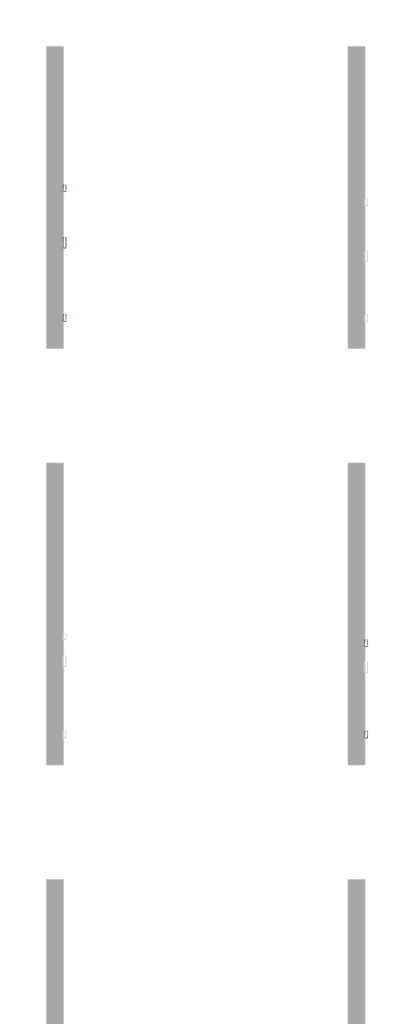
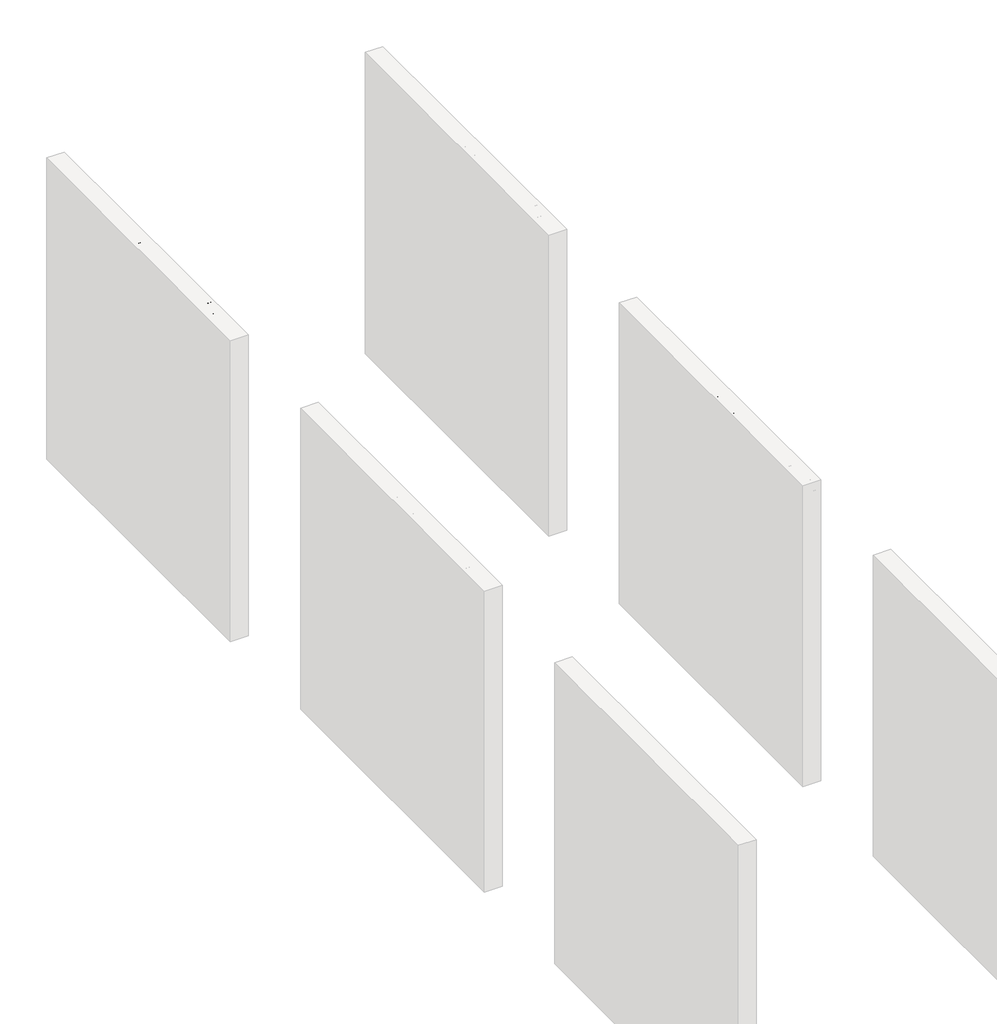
# One storey, part 13 of 17: 5 proxies.
"""IFC4 building model written with IfcOpenShell, lengths in millimetres."""

from ifc_helpers import new_model, si_unit, frame, origin, place, context, project, spatial, polyline, outline, extrude, element, save

model = new_model("IFC4")

# Units and contexts
model_context = context("Model", 3, world=origin())
ifc_project = project(units=[si_unit("LENGTHUNIT", "METRE", prefix="MILLI")], contexts=[model_context])

# Site, building, storey
site = spatial("IfcSite", under=ifc_project)
building = spatial("IfcBuilding", under=site)
storey = spatial("IfcBuildingStorey", under=building, Name="PORTOBELLO - SHOWROOM", Elevation=0.0)

# Proxies
placement = place(None, origin())
element("IfcBuildingElementProxy", 1, Name="10mm Arial", ObjectType="10mm Arial", at=placement, inside=storey, context=model_context, shape_type="SweptSolid", body=[
    extrude(outline(polyline([(13175.18701, 2518.4745677), (13175.18701, 2606.373839), (13142.2247833, 2606.373839), (13142.2247833, 2618.9308778), (13220.7062756, 2618.9308778), (13220.7062756, 2606.373839), (13187.7440488, 2606.373839), (13187.7440488, 2518.4745677), (13175.18701, 2518.4745677)])), frame((-13022.2794626, 0.0, 0.0), z_axis=(1.0, 0.0, 0.0), x_axis=(0.0, 1.0, 0.0)), (0.0, 0.0, 1.0), 20.0),
    extrude(outline(polyline([(13230.1240546, 2555.360869), (13232.84025, 2573.1479635), (13240.9888362, 2585.64982), (13251.0565402, 2591.7750552), (13263.1108069, 2593.8168003), (13276.3024421, 2591.3305311), (13286.8391956, 2583.8717237), (13293.74618, 2572.0289891), (13296.0485082, 2556.3909386), (13291.9772808, 2534.0482388), (13280.1192178, 2521.4053609), (13263.1108069, 2516.9049378), (13249.7597561, 2519.3820099), (13239.2352654, 2526.8132262), (13232.4018573, 2538.9042811), (13230.1240546, 2555.360869)]), holes=[polyline([(13242.6810934, 2555.3853945), (13244.1342273, 2544.0209065), (13248.4936289, 2535.924437), (13255.0541912, 2531.0775917), (13263.1108069, 2529.4619766), (13271.1306344, 2531.0867887), (13277.6789339, 2535.9612252), (13282.0383355, 2544.1649937), (13283.4914694, 2555.777802), (13282.0291385, 2566.8111961), (13277.6421457, 2574.7973011), (13271.0846491, 2579.6441464), (13263.1108069, 2581.2597615), (13255.0541912, 2579.6502778), (13248.4936289, 2574.8218266), (13244.1342273, 2566.7437511), (13242.6810934, 2555.3853945)])]), frame((-13022.2794626, 0.0, 0.0), z_axis=(1.0, 0.0, 0.0), x_axis=(0.0, 1.0, 0.0)), (0.0, 0.0, 1.0), 20.0),
    extrude(outline(polyline([(13313.3144365, 2518.4745677), (13313.3144365, 2579.6901317), (13302.3270276, 2579.6901317), (13302.3270276, 2592.2471704), (13313.3144365, 2592.2471704), (13313.3144365, 2599.6783867), (13314.6388117, 2610.1507609), (13321.0644838, 2617.6310281), (13333.7196245, 2620.5005077), (13345.1730173, 2619.1270815), (13343.3336073, 2607.3548577), (13336.0985947, 2607.9434689), (13328.1891318, 2605.8588043), (13325.8714752, 2598.0842314), (13325.8714752, 2592.2471704), (13339.9981439, 2592.2471704), (13339.9981439, 2579.6901317), (13325.8714752, 2579.6901317), (13325.8714752, 2518.4745677), (13313.3144365, 2518.4745677)])), frame((-13022.2794626, 0.0, 0.0), z_axis=(1.0, 0.0, 0.0), x_axis=(0.0, 1.0, 0.0)), (0.0, 0.0, 1.0), 20.0),
    extrude(outline(polyline([(13354.1248125, 2518.4745677), (13354.1248125, 2579.6901317), (13343.1374036, 2579.6901317), (13343.1374036, 2592.2471704), (13354.1248125, 2592.2471704), (13354.1248125, 2599.6783867), (13355.4491877, 2610.1507609), (13361.8748598, 2617.6310281), (13374.5300005, 2620.5005077), (13385.9833933, 2619.1270815), (13384.1439833, 2607.3548577), (13376.9089707, 2607.9434689), (13368.9995078, 2605.8588043), (13366.6818512, 2598.0842314), (13366.6818512, 2592.2471704), (13380.8085199, 2592.2471704), (13380.8085199, 2579.6901317), (13366.6818512, 2579.6901317), (13366.6818512, 2518.4745677), (13354.1248125, 2518.4745677)])), frame((-13022.2794626, 0.0, 0.0), z_axis=(1.0, 0.0, 0.0), x_axis=(0.0, 1.0, 0.0)), (0.0, 0.0, 1.0), 20.0),
    extrude(outline(polyline([(13443.4465609, 2540.4493855), (13455.758345, 2538.8797557), (13451.3223013, 2529.602998), (13444.2436386, 2522.6684224), (13434.6817724, 2518.345809), (13422.7961182, 2516.9049378), (13408.0624443, 2519.391207), (13396.7255475, 2526.8500144), (13389.4966663, 2538.7969822), (13387.0870392, 2554.7477324), (13389.5211918, 2571.2349771), (13396.8236494, 2583.5651553), (13408.007262, 2591.253889), (13422.0848797, 2593.8168003), (13435.7241047, 2591.2600204), (13446.6226088, 2583.5896808), (13453.7687166, 2571.2840281), (13456.1507525, 2554.8213088), (13456.0771761, 2551.4367944), (13399.644078, 2551.4367944), (13401.8176475, 2542.0374095), (13406.8668279, 2535.1273593), (13414.153957, 2530.8783223), (13423.0413729, 2529.4619766), (13435.353157, 2532.0862015), (13443.4465609, 2540.4493855)]), holes=[polyline([(13399.644078, 2563.9938332), (13443.5937137, 2563.9938332), (13438.5659931, 2575.3736496), (13431.2451414, 2579.7882335), (13422.0358288, 2581.2597615), (13406.5725223, 2576.5631347), (13401.7072829, 2571.0724959), (13399.644078, 2563.9938332)])]), frame((-13022.2794626, 0.0, 0.0), z_axis=(1.0, 0.0, 0.0), x_axis=(0.0, 1.0, 0.0)), (0.0, 0.0, 1.0), 20.0),
    extrude(outline(polyline([(13520.3584234, 2540.4493855), (13532.6702075, 2538.8797557), (13528.2341637, 2529.602998), (13521.155501, 2522.6684224), (13511.5936348, 2518.345809), (13499.7079807, 2516.9049378), (13484.9743068, 2519.391207), (13473.63741, 2526.8500144), (13466.4085288, 2538.7969822), (13463.9989017, 2554.7477324), (13466.4330542, 2571.2349771), (13473.7355118, 2583.5651553), (13484.9191245, 2591.253889), (13498.9967422, 2593.8168003), (13512.6359671, 2591.2600204), (13523.5344713, 2583.5896808), (13530.680579, 2571.2840281), (13533.0626149, 2554.8213088), (13532.9890385, 2551.4367944), (13476.5559405, 2551.4367944), (13478.7295099, 2542.0374095), (13483.7786903, 2535.1273593), (13491.0658195, 2530.8783223), (13499.9532354, 2529.4619766), (13512.2650195, 2532.0862015), (13520.3584234, 2540.4493855)]), holes=[polyline([(13476.5559405, 2563.9938332), (13520.5055762, 2563.9938332), (13515.4778556, 2575.3736496), (13508.1570039, 2579.7882335), (13498.9476912, 2581.2597615), (13483.4843847, 2576.5631347), (13478.6191453, 2571.0724959), (13476.5559405, 2563.9938332)])]), frame((-13022.2794626, 0.0, 0.0), z_axis=(1.0, 0.0, 0.0), x_axis=(0.0, 1.0, 0.0)), (0.0, 0.0, 1.0), 20.0),
    extrude(outline(polyline([(13581.7211402, 2553.0064243), (13594.2781789, 2553.0064243), (13598.3248809, 2540.4371228), (13608.2086438, 2532.4908717), (13623.2672801, 2529.4619766), (13636.3884046, 2531.7551077), (13644.8619533, 2538.0581525), (13647.6455937, 2546.4826502), (13645.5609291, 2554.3185367), (13637.0260668, 2560.0207077), (13618.7423316, 2564.8154363), (13599.0606449, 2571.0081166), (13588.3798043, 2580.3523193), (13584.8603999, 2592.8357816), (13589.2136701, 2607.0482894), (13601.9301244, 2617.0792051), (13620.5449534, 2620.5005077), (13640.4105811, 2616.9197896), (13653.6543329, 2606.3983645), (13658.6330026, 2590.6775406), (13646.0759638, 2590.6775406), (13643.77057, 2598.1700706), (13638.9635786, 2603.5779359), (13621.0354627, 2607.9434689), (13603.0582959, 2603.6269868), (13597.4174386, 2593.2036636), (13601.4150896, 2584.4971231), (13621.9183795, 2577.4828397), (13644.138452, 2571.1797948), (13656.2908206, 2561.0017263), (13660.2026325, 2546.8014813), (13655.7022094, 2531.7796332), (13642.7527632, 2520.8167497), (13623.7577895, 2516.9049378), (13601.3292505, 2521.123318), (13587.1412682, 2533.8275096), (13581.7211402, 2553.0064243)])), frame((-13022.2794626, 0.0, 0.0), z_axis=(1.0, 0.0, 0.0), x_axis=(0.0, 1.0, 0.0)), (0.0, 0.0, 1.0), 20.0),
    extrude(outline(polyline([(13724.5574562, 2518.4745677), (13724.5574562, 2531.1542338), (13714.7227441, 2520.4672618), (13701.8959252, 2516.9049378), (13690.0869132, 2519.4065354), (13681.9444584, 2525.6850548), (13678.2043248, 2534.9311556), (13677.4685608, 2546.6052776), (13677.4685608, 2592.2471704), (13690.0255995, 2592.2471704), (13690.0255995, 2552.515915), (13690.785889, 2539.7136215), (13695.7522959, 2532.1965661), (13705.1087613, 2529.4619766), (13715.5933982, 2532.2578797), (13722.5218424, 2539.873037), (13724.5574562, 2553.8648156), (13724.5574562, 2592.2471704), (13737.1144949, 2592.2471704), (13737.1144949, 2518.4745677), (13724.5574562, 2518.4745677)])), frame((-13022.2794626, 0.0, 0.0), z_axis=(1.0, 0.0, 0.0), x_axis=(0.0, 1.0, 0.0)), (0.0, 0.0, 1.0), 20.0),
    extrude(outline(polyline([(13754.3804232, 2490.2212304), (13754.3804232, 2592.2471704), (13766.937462, 2592.2471704), (13766.937462, 2579.9353863), (13775.6194771, 2590.3464468), (13787.34265, 2593.8168003), (13803.2596777, 2588.9607579), (13813.6584754, 2575.2755477), (13817.1656171, 2555.9249548), (13813.2047543, 2535.5810804), (13801.7023105, 2521.724192), (13785.8220711, 2516.9049378), (13774.8959758, 2520.1300366), (13766.937462, 2528.2847542), (13766.937462, 2490.2212304), (13754.3804232, 2490.2212304)]), holes=[polyline([(13766.937462, 2554.7722579), (13768.2955597, 2543.5150688), (13772.3698528, 2535.6423941), (13778.3816577, 2531.007081), (13785.552291, 2529.4619766), (13792.8394201, 2531.0622633), (13799.0045092, 2535.8631233), (13803.207561, 2544.0239722), (13804.6085783, 2555.7042256), (13803.2412836, 2566.900101), (13799.1393993, 2574.8831403), (13793.1367914, 2579.6656062), (13786.0673257, 2581.2597615), (13778.9702689, 2579.5644386), (13772.7377348, 2574.4784701), (13768.3875302, 2566.1612713), (13766.937462, 2554.7722579)])]), frame((-13022.2794626, 0.0, 0.0), z_axis=(1.0, 0.0, 0.0), x_axis=(0.0, 1.0, 0.0)), (0.0, 0.0, 1.0), 20.0),
    extrude(outline(polyline([(13831.2922857, 2518.4745677), (13831.2922857, 2592.2471704), (13842.2796946, 2592.2471704), (13842.2796946, 2581.3333379), (13850.0787929, 2591.3887791), (13857.9269421, 2593.8168003), (13870.5330318, 2589.9417766), (13866.3391771, 2578.6845875), (13857.5100092, 2581.2597615), (13850.4098867, 2578.7826894), (13845.8849382, 2571.9155588), (13843.8493245, 2557.24933), (13843.8493245, 2518.4745677), (13831.2922857, 2518.4745677)])), frame((-13022.2794626, 0.0, 0.0), z_axis=(1.0, 0.0, 0.0), x_axis=(0.0, 1.0, 0.0)), (0.0, 0.0, 1.0), 20.0),
    extrude(outline(polyline([(13930.0318132, 2540.4493855), (13942.3435973, 2538.8797557), (13937.9075536, 2529.602998), (13930.8288908, 2522.6684224), (13921.2670247, 2518.345809), (13909.3813705, 2516.9049378), (13894.6476966, 2519.391207), (13883.3107998, 2526.8500144), (13876.0819186, 2538.7969822), (13873.6722915, 2554.7477324), (13876.1064441, 2571.2349771), (13883.4089017, 2583.5651553), (13894.5925143, 2591.253889), (13908.670132, 2593.8168003), (13922.309357, 2591.2600204), (13933.2078611, 2583.5896808), (13940.3539688, 2571.2840281), (13942.7360048, 2554.8213088), (13942.6624284, 2551.4367944), (13886.2293303, 2551.4367944), (13888.4028998, 2542.0374095), (13893.4520801, 2535.1273593), (13900.7392093, 2530.8783223), (13909.6266252, 2529.4619766), (13921.9384093, 2532.0862015), (13930.0318132, 2540.4493855)]), holes=[polyline([(13886.2293303, 2563.9938332), (13930.178966, 2563.9938332), (13925.1512454, 2575.3736496), (13917.8303937, 2579.7882335), (13908.6210811, 2581.2597615), (13893.1577745, 2576.5631347), (13888.2925352, 2571.0724959), (13886.2293303, 2563.9938332)])]), frame((-13022.2794626, 0.0, 0.0), z_axis=(1.0, 0.0, 0.0), x_axis=(0.0, 1.0, 0.0)), (0.0, 0.0, 1.0), 20.0),
    extrude(outline(polyline([(13955.2930435, 2518.4745677), (13955.2930435, 2592.2471704), (13967.8500823, 2592.2471704), (13967.8500823, 2580.1070646), (13976.4830464, 2590.0521412), (13988.7703051, 2593.8168003), (14001.3518693, 2589.9785648), (14008.2680508, 2579.2241478), (14018.0659746, 2590.1686372), (14030.4390724, 2593.8168003), (14039.8783113, 2592.299287), (14046.8588721, 2587.7467474), (14051.1722885, 2580.0365539), (14052.610094, 2569.0460793), (14052.610094, 2518.4745677), (14040.0530552, 2518.4745677), (14040.0530552, 2563.6504767), (14038.8880956, 2574.1351135), (14034.6697154, 2579.2977242), (14027.4960164, 2581.2597615), (14015.1474441, 2576.2320409), (14011.4594271, 2569.6898728), (14010.2300881, 2560.1188095), (14010.2300881, 2518.4745677), (13997.6730494, 2518.4745677), (13997.6730494, 2565.0484283), (13994.7667816, 2577.2130596), (13985.2386379, 2581.2597615), (13975.9434862, 2578.5619602), (13969.7630687, 2570.66476), (13967.8500823, 2555.6797001), (13967.8500823, 2518.4745677), (13955.2930435, 2518.4745677)])), frame((-13022.2794626, 0.0, 0.0), z_axis=(1.0, 0.0, 0.0), x_axis=(0.0, 1.0, 0.0)), (0.0, 0.0, 1.0), 20.0),
    extrude(outline(polyline([(14123.0962843, 2540.4493855), (14135.4080684, 2538.8797557), (14130.9720246, 2529.602998), (14123.8933619, 2522.6684224), (14114.3314957, 2518.345809), (14102.4458416, 2516.9049378), (14087.7121677, 2519.391207), (14076.3752709, 2526.8500144), (14069.1463897, 2538.7969822), (14066.7367626, 2554.7477324), (14069.1709151, 2571.2349771), (14076.4733727, 2583.5651553), (14087.6569854, 2591.253889), (14101.7346031, 2593.8168003), (14115.373828, 2591.2600204), (14126.2723322, 2583.5896808), (14133.4184399, 2571.2840281), (14135.8004758, 2554.8213088), (14135.7268994, 2551.4367944), (14079.2938014, 2551.4367944), (14081.4673708, 2542.0374095), (14086.5165512, 2535.1273593), (14093.8036804, 2530.8783223), (14102.6910963, 2529.4619766), (14115.0028804, 2532.0862015), (14123.0962843, 2540.4493855)]), holes=[polyline([(14079.2938014, 2563.9938332), (14123.2434371, 2563.9938332), (14118.2157165, 2575.3736496), (14110.8948648, 2579.7882335), (14101.6855521, 2581.2597615), (14086.2222456, 2576.5631347), (14081.3570062, 2571.0724959), (14079.2938014, 2563.9938332)])]), frame((-13022.2794626, 0.0, 0.0), z_axis=(1.0, 0.0, 0.0), x_axis=(0.0, 1.0, 0.0)), (0.0, 0.0, 1.0), 20.0),
    extrude(outline(polyline([(14189.1678906, 2518.4745677), (14189.1678906, 2618.9308778), (14210.70125, 2618.9308778), (14231.3026418, 2548.1258565), (14235.4719711, 2533.3370003), (14239.9601314, 2549.3521298), (14260.1691157, 2618.9308778), (14281.7760515, 2618.9308778), (14281.7760515, 2518.4745677), (14269.2190127, 2518.4745677), (14269.2190127, 2606.373839), (14243.9823079, 2518.4745677), (14226.9861597, 2518.4745677), (14201.7249294, 2606.373839), (14201.7249294, 2518.4745677), (14189.1678906, 2518.4745677)])), frame((-13022.2794626, 0.0, 0.0), z_axis=(1.0, 0.0, 0.0), x_axis=(0.0, 1.0, 0.0)), (0.0, 0.0, 1.0), 20.0),
    extrude(outline(polyline([(-13002.2794626, 14314.7382783), (-13002.2794626, 14302.1812395), (-13022.2794626, 14302.1812395), (-13022.2794626, 14314.7382783), (-13002.2794626, 14314.7382783)])), frame((0.0, 0.0, 2606.373839), z_axis=(0.0, 0.0, 1.0), x_axis=(1.0, 0.0, 0.0)), (0.0, 0.0, 1.0), 12.5570388),
    extrude(outline(polyline([(-13002.2794626, 14314.7382783), (-13002.2794626, 14302.1812395), (-13022.2794626, 14302.1812395), (-13022.2794626, 14314.7382783), (-13002.2794626, 14314.7382783)])), frame((0.0, 0.0, 2518.4745677), z_axis=(0.0, 0.0, 1.0), x_axis=(1.0, 0.0, 0.0)), (0.0, 0.0, 1.0), 73.7726028),
    extrude(outline(polyline([(14325.7256872, 2518.4745677), (14352.5565474, 2555.5815982), (14327.295317, 2592.2471704), (14342.3539534, 2592.2471704), (14354.5431102, 2574.5643092), (14360.2575438, 2566.2501761), (14365.211688, 2573.0682557), (14379.093102, 2592.2471704), (14394.2007892, 2592.2471704), (14367.6642347, 2555.5570728), (14393.2197706, 2518.4745677), (14378.1366088, 2518.4745677), (14362.7346159, 2540.792742), (14359.9387128, 2544.8884949), (14340.8333745, 2518.4745677), (14325.7256872, 2518.4745677)])), frame((-13022.2794626, 0.0, 0.0), z_axis=(1.0, 0.0, 0.0), x_axis=(0.0, 1.0, 0.0)), (0.0, 0.0, 1.0), 20.0),
])
element("IfcBuildingElementProxy", 2, Name="10mm Arial", ObjectType="10mm Arial", at=placement, inside=storey, context=model_context, shape_type="SweptSolid", body=[
    extrude(outline(polyline([(13192.4529383, 2393.4745677), (13179.8958996, 2393.4745677), (13179.8958996, 2471.7598562), (13168.0010484, 2463.2863076), (13154.781822, 2456.9464746), (13154.781822, 2468.8168003), (13173.1881845, 2480.5644987), (13184.3595344, 2493.9308778), (13192.4529383, 2493.9308778), (13192.4529383, 2393.4745677)])), frame((-13022.2794626, 0.0, 0.0), z_axis=(1.0, 0.0, 0.0), x_axis=(0.0, 1.0, 0.0)), (0.0, 0.0, 1.0), 20.0),
    extrude(outline(polyline([(13222.2759054, 2442.8933823), (13225.9669881, 2471.7966444), (13236.9298715, 2488.4616988), (13255.2381322, 2493.9308778), (13269.904361, 2490.6935163), (13280.0333786, 2481.3615763), (13285.9194906, 2466.4991437), (13288.2003589, 2442.8933823), (13284.5460645, 2414.1127476), (13273.6199692, 2397.410905), (13265.3886096, 2393.2814296), (13255.2381322, 2391.9049378), (13242.1905841, 2394.2961708), (13232.2822957, 2401.4698697), (13224.777503, 2418.4598865), (13222.2759054, 2442.8933823)]), holes=[polyline([(13234.8329442, 2442.9179078), (13236.3044722, 2423.1657104), (13240.7190561, 2411.7337774), (13247.2918811, 2406.2799268), (13255.2381322, 2404.4619766), (13263.1843833, 2406.2860581), (13269.7572082, 2411.7583028), (13274.1717922, 2423.1963672), (13275.6433202, 2442.9179078), (13274.2208431, 2462.2255812), (13269.953412, 2473.746419), (13263.3928497, 2479.466984), (13255.0909794, 2481.373839), (13247.2305674, 2479.6938446), (13240.9152598, 2474.6538613), (13236.3535231, 2462.4156536), (13234.8329442, 2442.9179078)])]), frame((-13022.2794626, 0.0, 0.0), z_axis=(1.0, 0.0, 0.0), x_axis=(0.0, 1.0, 0.0)), (0.0, 0.0, 1.0), 20.0),
    extrude(outline(polyline([(13294.4788783, 2393.4745677), (13321.3097385, 2430.5815982), (13296.0485082, 2467.2471704), (13311.1071445, 2467.2471704), (13323.2963013, 2449.5643092), (13329.0107349, 2441.2501761), (13333.9648791, 2448.0682557), (13347.8462931, 2467.2471704), (13362.9539804, 2467.2471704), (13336.4174258, 2430.5570728), (13361.9729617, 2393.4745677), (13346.8897999, 2393.4745677), (13331.487807, 2415.792742), (13328.6919039, 2419.8884949), (13309.5865656, 2393.4745677), (13294.4788783, 2393.4745677)])), frame((-13022.2794626, 0.0, 0.0), z_axis=(1.0, 0.0, 0.0), x_axis=(0.0, 1.0, 0.0)), (0.0, 0.0, 1.0), 20.0),
    extrude(outline(polyline([(13434.1759346, 2406.0316064), (13434.1759346, 2393.4745677), (13368.2514811, 2393.4745677), (13369.6003817, 2402.1320573), (13377.2400645, 2415.4616482), (13392.9731512, 2430.0175125), (13414.6414007, 2450.9377353), (13420.049266, 2465.1625058), (13414.9357063, 2476.6772122), (13401.5815899, 2481.373839), (13387.6633877, 2476.7875768), (13382.3781497, 2464.1079107), (13369.8211109, 2465.6775406), (13372.8653344, 2477.8237778), (13379.4473565, 2486.6958652), (13389.2238205, 2492.1221247), (13401.85137, 2493.9308778), (13414.57089, 2491.9197896), (13424.3289599, 2485.8865249), (13430.5369686, 2476.873416), (13432.6063048, 2465.9227952), (13430.3744873, 2454.0156813), (13422.9555338, 2441.7038972), (13404.9661042, 2424.4992826), (13390.5206045, 2412.4204904), (13384.8552218, 2406.0316064), (13434.1759346, 2406.0316064)])), frame((-13022.2794626, 0.0, 0.0), z_axis=(1.0, 0.0, 0.0), x_axis=(0.0, 1.0, 0.0)), (0.0, 0.0, 1.0), 20.0),
    extrude(outline(polyline([(13446.7329734, 2442.8933823), (13450.4240561, 2471.7966444), (13461.3869395, 2488.4616988), (13479.6952002, 2493.9308778), (13494.361429, 2490.6935163), (13504.4904466, 2481.3615763), (13510.3765586, 2466.4991437), (13512.6574269, 2442.8933823), (13509.0031324, 2414.1127476), (13498.0770372, 2397.410905), (13489.8456775, 2393.2814296), (13479.6952002, 2391.9049378), (13466.6476521, 2394.2961708), (13456.7393637, 2401.4698697), (13449.234571, 2418.4598865), (13446.7329734, 2442.8933823)]), holes=[polyline([(13459.2900122, 2442.9179078), (13460.7615401, 2423.1657104), (13465.1761241, 2411.7337774), (13471.7489491, 2406.2799268), (13479.6952002, 2404.4619766), (13487.6414513, 2406.2860581), (13494.2142762, 2411.7583028), (13498.6288602, 2423.1963672), (13500.1003882, 2442.9179078), (13498.6779111, 2462.2255812), (13494.41048, 2473.746419), (13487.8499177, 2479.466984), (13479.5480474, 2481.373839), (13471.6876354, 2479.6938446), (13465.3723278, 2474.6538613), (13460.8105911, 2462.4156536), (13459.2900122, 2442.9179078)])]), frame((-13022.2794626, 0.0, 0.0), z_axis=(1.0, 0.0, 0.0), x_axis=(0.0, 1.0, 0.0)), (0.0, 0.0, 1.0), 20.0),
])
element("IfcBuildingElementProxy", 3, Name="10mm Arial", ObjectType="10mm Arial", at=placement, inside=storey, context=model_context, shape_type="SweptSolid", body=[
    extrude(outline(polyline([(9462.4529383, 2393.4745677), (9449.8958996, 2393.4745677), (9449.8958996, 2471.7598562), (9438.0010484, 2463.2863076), (9424.781822, 2456.9464746), (9424.781822, 2468.8168003), (9443.1881845, 2480.5644987), (9454.3595344, 2493.9308778), (9462.4529383, 2493.9308778), (9462.4529383, 2393.4745677)])), frame((-10322.2794626, 0.0, 0.0), z_axis=(1.0, 0.0, 0.0), x_axis=(0.0, 1.0, 0.0)), (0.0, 0.0, 1.0), 20.0),
    extrude(outline(polyline([(9492.2759054, 2442.8933823), (9495.9669881, 2471.7966444), (9506.9298715, 2488.4616988), (9525.2381322, 2493.9308778), (9539.904361, 2490.6935163), (9550.0333786, 2481.3615763), (9555.9194906, 2466.4991437), (9558.2003589, 2442.8933823), (9554.5460645, 2414.1127476), (9543.6199692, 2397.410905), (9535.3886096, 2393.2814296), (9525.2381322, 2391.9049378), (9512.1905841, 2394.2961708), (9502.2822957, 2401.4698697), (9494.777503, 2418.4598865), (9492.2759054, 2442.8933823)]), holes=[polyline([(9504.8329442, 2442.9179078), (9506.3044722, 2423.1657104), (9510.7190561, 2411.7337774), (9517.2918811, 2406.2799268), (9525.2381322, 2404.4619766), (9533.1843833, 2406.2860581), (9539.7572082, 2411.7583028), (9544.1717922, 2423.1963672), (9545.6433202, 2442.9179078), (9544.2208431, 2462.2255812), (9539.953412, 2473.746419), (9533.3928497, 2479.466984), (9525.0909794, 2481.373839), (9517.2305674, 2479.6938446), (9510.9152598, 2474.6538613), (9506.3535231, 2462.4156536), (9504.8329442, 2442.9179078)])]), frame((-10322.2794626, 0.0, 0.0), z_axis=(1.0, 0.0, 0.0), x_axis=(0.0, 1.0, 0.0)), (0.0, 0.0, 1.0), 20.0),
    extrude(outline(polyline([(9564.4788783, 2393.4745677), (9591.3097385, 2430.5815982), (9566.0485082, 2467.2471704), (9581.1071445, 2467.2471704), (9593.2963013, 2449.5643092), (9599.0107349, 2441.2501761), (9603.9648791, 2448.0682557), (9617.8462931, 2467.2471704), (9632.9539804, 2467.2471704), (9606.4174258, 2430.5570728), (9631.9729617, 2393.4745677), (9616.8897999, 2393.4745677), (9601.487807, 2415.792742), (9598.6919039, 2419.8884949), (9579.5865656, 2393.4745677), (9564.4788783, 2393.4745677)])), frame((-10322.2794626, 0.0, 0.0), z_axis=(1.0, 0.0, 0.0), x_axis=(0.0, 1.0, 0.0)), (0.0, 0.0, 1.0), 20.0),
    extrude(outline(polyline([(9704.1759346, 2406.0316064), (9704.1759346, 2393.4745677), (9638.2514811, 2393.4745677), (9639.6003817, 2402.1320573), (9647.2400645, 2415.4616482), (9662.9731512, 2430.0175125), (9684.6414007, 2450.9377353), (9690.049266, 2465.1625058), (9684.9357063, 2476.6772122), (9671.5815899, 2481.373839), (9657.6633877, 2476.7875768), (9652.3781497, 2464.1079107), (9639.8211109, 2465.6775406), (9642.8653344, 2477.8237778), (9649.4473565, 2486.6958652), (9659.2238205, 2492.1221247), (9671.85137, 2493.9308778), (9684.57089, 2491.9197896), (9694.3289599, 2485.8865249), (9700.5369686, 2476.873416), (9702.6063048, 2465.9227952), (9700.3744873, 2454.0156813), (9692.9555338, 2441.7038972), (9674.9661042, 2424.4992826), (9660.5206045, 2412.4204904), (9654.8552218, 2406.0316064), (9704.1759346, 2406.0316064)])), frame((-10322.2794626, 0.0, 0.0), z_axis=(1.0, 0.0, 0.0), x_axis=(0.0, 1.0, 0.0)), (0.0, 0.0, 1.0), 20.0),
    extrude(outline(polyline([(9716.7329734, 2442.8933823), (9720.4240561, 2471.7966444), (9731.3869395, 2488.4616988), (9749.6952002, 2493.9308778), (9764.361429, 2490.6935163), (9774.4904466, 2481.3615763), (9780.3765586, 2466.4991437), (9782.6574269, 2442.8933823), (9779.0031324, 2414.1127476), (9768.0770372, 2397.410905), (9759.8456775, 2393.2814296), (9749.6952002, 2391.9049378), (9736.6476521, 2394.2961708), (9726.7393637, 2401.4698697), (9719.234571, 2418.4598865), (9716.7329734, 2442.8933823)]), holes=[polyline([(9729.2900122, 2442.9179078), (9730.7615401, 2423.1657104), (9735.1761241, 2411.7337774), (9741.7489491, 2406.2799268), (9749.6952002, 2404.4619766), (9757.6414513, 2406.2860581), (9764.2142762, 2411.7583028), (9768.6288602, 2423.1963672), (9770.1003882, 2442.9179078), (9768.6779111, 2462.2255812), (9764.41048, 2473.746419), (9757.8499177, 2479.466984), (9749.5480474, 2481.373839), (9741.6876354, 2479.6938446), (9735.3723278, 2474.6538613), (9730.8105911, 2462.4156536), (9729.2900122, 2442.9179078)])]), frame((-10322.2794626, 0.0, 0.0), z_axis=(1.0, 0.0, 0.0), x_axis=(0.0, 1.0, 0.0)), (0.0, 0.0, 1.0), 20.0),
])
element("IfcBuildingElementProxy", 4, Name="10mm Arial Narrow", ObjectType="10mm Arial Narrow", at=placement, inside=storey, context=model_context, shape_type="SweptSolid", body=[
    extrude(outline(polyline([(10385.2528462, 2518.4745677), (10385.2528462, 2619.1931714), (10416.5497308, 2619.1931714), (10432.8454323, 2617.3148507), (10444.3184185, 2607.8344075), (10448.6080969, 2590.8152987), (10446.8217885, 2578.7394731), (10441.4628633, 2569.1130794), (10431.7190745, 2562.811821), (10416.7781752, 2560.7114015), (10394.9998078, 2560.7114015), (10394.9998078, 2518.4745677), (10385.2528462, 2518.4745677)]), holes=[polyline([(10394.9998078, 2572.0828568), (10417.9711627, 2572.0828568), (10433.8353581, 2576.613671), (10438.8611352, 2590.2822617), (10436.3863208, 2600.4480381), (10430.4086919, 2606.247988), (10417.7427183, 2607.8217162), (10394.9998078, 2607.8217162), (10394.9998078, 2572.0828568)])]), frame((-10322.2794626, 0.0, 0.0), z_axis=(1.0, 0.0, 0.0), x_axis=(0.0, 1.0, 0.0)), (0.0, 0.0, 1.0), 20.0),
    extrude(outline(polyline([(10456.7305649, 2555.0256739), (10458.6850338, 2571.6164494), (10464.5484404, 2583.5685342), (10473.4070071, 2590.7930888), (10484.3469563, 2593.2012737), (10495.1599919, 2590.7930888), (10504.0439413, 2583.5685342), (10509.9834961, 2571.8068198), (10511.9633476, 2555.7871552), (10510.0183973, 2538.6252687), (10504.1835462, 2526.4828135), (10495.334498, 2519.2582589), (10484.3469563, 2516.8500741), (10473.4863281, 2519.2646046), (10464.6118972, 2526.5081962), (10458.700898, 2538.4666267), (10456.7305649, 2555.0256739)]), holes=[polyline([(10466.4775266, 2555.0510566), (10467.7815635, 2542.4993052), (10471.693674, 2533.6280471), (10477.5348708, 2528.3547886), (10484.6261661, 2526.5970357), (10491.3462393, 2528.3706528), (10497.0383126, 2533.6915039), (10500.9218676, 2542.5786262), (10502.216386, 2555.0510566), (10500.9123491, 2567.5647339), (10497.0002385, 2576.4233006), (10491.1590418, 2581.6965592), (10484.0677465, 2583.454312), (10477.3000807, 2581.6870407), (10471.6175259, 2576.3852265), (10467.7625264, 2567.5171413), (10466.4775266, 2555.0510566)])]), frame((-10322.2794626, 0.0, 0.0), z_axis=(1.0, 0.0, 0.0), x_axis=(0.0, 1.0, 0.0)), (0.0, 0.0, 1.0), 20.0),
    extrude(outline(polyline([(10583.4410664, 2526.5970357), (10585.06556, 2516.8500741), (10577.7045734, 2516.8500741), (10569.4298091, 2518.9695306), (10565.1147479, 2524.7694804), (10563.9471431, 2539.4153056), (10563.9471431, 2581.8298184), (10555.8246751, 2581.8298184), (10555.8246751, 2585.0788056), (10554.2001815, 2580.2053248), (10546.6361331, 2581.8298184), (10540.5569734, 2579.5073002), (10536.6861098, 2573.0220171), (10534.7062582, 2557.6147106), (10534.7062582, 2518.4745677), (10524.9592965, 2518.4745677), (10524.9592965, 2591.5767801), (10534.7062582, 2591.5767801), (10534.7062582, 2581.8805838), (10540.9504055, 2590.967595), (10547.3468491, 2593.2012737), (10555.8246751, 2591.5767801), (10563.9471431, 2591.5767801), (10563.9471431, 2607.8217162), (10573.6941048, 2615.9441842), (10573.6941048, 2591.5767801), (10583.4410664, 2591.5767801), (10583.4410664, 2581.8298184), (10573.6941048, 2581.8298184), (10573.6941048, 2537.1816269), (10574.557117, 2529.1860724), (10579.1767707, 2526.5970357), (10583.4410664, 2526.5970357)])), frame((-10322.2794626, 0.0, 0.0), z_axis=(1.0, 0.0, 0.0), x_axis=(0.0, 1.0, 0.0)), (0.0, 0.0, 1.0), 20.0),
    extrude(outline(polyline([(10589.9390409, 2555.0256739), (10591.8935097, 2571.6164494), (10597.7569164, 2583.5685342), (10606.6154831, 2590.7930888), (10617.5554322, 2593.2012737), (10628.3684678, 2590.7930888), (10637.2524172, 2583.5685342), (10643.191972, 2571.8068198), (10645.1718236, 2555.7871552), (10643.2268732, 2538.6252687), (10637.3920222, 2526.4828135), (10628.542974, 2519.2582589), (10617.5554322, 2516.8500741), (10606.6948041, 2519.2646046), (10597.8203731, 2526.5081962), (10591.9093739, 2538.4666267), (10589.9390409, 2555.0256739)]), holes=[polyline([(10599.6860025, 2555.0510566), (10600.9900394, 2542.4993052), (10604.90215, 2533.6280471), (10610.7433467, 2528.3547886), (10617.8346421, 2526.5970357), (10624.5547152, 2528.3706528), (10630.2467885, 2533.6915039), (10634.1303436, 2542.5786262), (10635.4248619, 2555.0510566), (10634.1208251, 2567.5647339), (10630.2087145, 2576.4233006), (10624.3675177, 2581.6965592), (10617.2762224, 2583.454312), (10610.5085566, 2581.6870407), (10604.8260018, 2576.3852265), (10600.9710024, 2567.5171413), (10599.6860025, 2555.0510566)])]), frame((-10322.2794626, 0.0, 0.0), z_axis=(1.0, 0.0, 0.0), x_axis=(0.0, 1.0, 0.0)), (0.0, 0.0, 1.0), 20.0),
    extrude(outline(polyline([(10667.9147341, 2518.4745677), (10658.1677724, 2518.4745677), (10658.1677724, 2619.1931714), (10667.9147341, 2619.1931714), (10667.9147341, 2583.7842873), (10675.3137948, 2590.8660641), (10684.5150282, 2593.2012737), (10697.3967548, 2589.0004347), (10706.6741363, 2576.2710043), (10710.1515679, 2555.5840935), (10708.2193089, 2539.1297501), (10702.4225319, 2526.927011), (10694.0494096, 2519.3693083), (10684.3881146, 2516.8500741), (10675.0472764, 2519.4644935), (10667.9147341, 2527.2316035), (10667.9147341, 2518.4745677)]), holes=[polyline([(10667.9147341, 2555.5840935), (10669.9961165, 2538.3365403), (10675.8849059, 2529.6048872), (10684.3373492, 2526.5970357), (10690.2800768, 2528.3865169), (10695.5184341, 2533.7549607), (10700.4046063, 2555.1779701), (10695.6961131, 2576.613671), (10690.4514101, 2581.7441518), (10684.1342875, 2583.454312), (10678.1566587, 2581.6648308), (10672.8643631, 2576.2963871), (10667.9147341, 2555.5840935)])]), frame((-10322.2794626, 0.0, 0.0), z_axis=(1.0, 0.0, 0.0), x_axis=(0.0, 1.0, 0.0)), (0.0, 0.0, 1.0), 20.0),
    extrude(outline(polyline([(10762.1353634, 2541.2174782), (10771.8823251, 2539.5929846), (10768.1827947, 2529.706418), (10762.3638078, 2522.5865671), (10754.6601545, 2518.2841973), (10745.3066249, 2516.8500741), (10733.7130709, 2519.2646046), (10724.5689487, 2526.5081962), (10718.629394, 2538.3143304), (10716.6495424, 2554.4164888), (10718.6389125, 2571.0834124), (10724.6070228, 2583.2639417), (10733.6210586, 2590.7169407), (10744.7482053, 2593.2012737), (10755.4311544, 2590.8026073), (10764.1786718, 2583.6066083), (10770.0135229, 2571.8671037), (10771.9584732, 2555.8379207), (10771.8823251, 2552.5889335), (10726.396504, 2552.5889335), (10732.3995156, 2533.1457756), (10738.3295518, 2528.2342207), (10745.4335385, 2526.5970357), (10755.6120063, 2530.2521463), (10762.1353634, 2541.2174782)]), holes=[polyline([(10727.0564546, 2562.3358951), (10762.1353634, 2562.3358951), (10757.8710677, 2576.6009796), (10752.0457351, 2581.7409789), (10744.8243534, 2583.454312), (10732.6152686, 2577.7432017), (10727.0564546, 2562.3358951)])]), frame((-10322.2794626, 0.0, 0.0), z_axis=(1.0, 0.0, 0.0), x_axis=(0.0, 1.0, 0.0)), (0.0, 0.0, 1.0), 20.0),
    extrude(outline(polyline([(-10302.2794626, 10794.6252356), (-10302.2794626, 10784.8782739), (-10322.2794626, 10784.8782739), (-10322.2794626, 10794.6252356), (-10302.2794626, 10794.6252356)])), frame((0.0, 0.0, 2518.4745677), z_axis=(0.0, 0.0, 1.0), x_axis=(1.0, 0.0, 0.0)), (0.0, 0.0, 1.0), 100.7186038),
    extrude(outline(polyline([(-10302.2794626, 10820.6171333), (-10302.2794626, 10810.8701717), (-10322.2794626, 10810.8701717), (-10322.2794626, 10820.6171333), (-10302.2794626, 10820.6171333)])), frame((0.0, 0.0, 2518.4745677), z_axis=(0.0, 0.0, 1.0), x_axis=(1.0, 0.0, 0.0)), (0.0, 0.0, 1.0), 100.7186038),
    extrude(outline(polyline([(10831.9885886, 2555.0256739), (10833.9430575, 2571.6164494), (10839.8064641, 2583.5685342), (10848.6650308, 2590.7930888), (10859.60498, 2593.2012737), (10870.4180155, 2590.7930888), (10879.301965, 2583.5685342), (10885.2415197, 2571.8068198), (10887.2213713, 2555.7871552), (10885.276421, 2538.6252687), (10879.4415699, 2526.4828135), (10870.5925217, 2519.2582589), (10859.60498, 2516.8500741), (10848.7443518, 2519.2646046), (10839.8699209, 2526.5081962), (10833.9589217, 2538.4666267), (10831.9885886, 2555.0256739)]), holes=[polyline([(10841.7355503, 2555.0510566), (10843.0395871, 2542.4993052), (10846.9516977, 2533.6280471), (10852.7928944, 2528.3547886), (10859.8841898, 2526.5970357), (10866.604263, 2528.3706528), (10872.2963363, 2533.6915039), (10876.1798913, 2542.5786262), (10877.4744097, 2555.0510566), (10876.1703728, 2567.5647339), (10872.2582622, 2576.4233006), (10866.4170655, 2581.6965592), (10859.3257701, 2583.454312), (10852.5581044, 2581.6870407), (10846.8755496, 2576.3852265), (10843.0205501, 2567.5171413), (10841.7355503, 2555.0510566)])]), frame((-10322.2794626, 0.0, 0.0), z_axis=(1.0, 0.0, 0.0), x_axis=(0.0, 1.0, 0.0)), (0.0, 0.0, 1.0), 20.0),
])
element("IfcBuildingElementProxy", 5, Name="10mm Arial Narrow", ObjectType="10mm Arial Narrow", at=placement, inside=storey, context=model_context, shape_type="SweptSolid", body=[
    extrude(outline(polyline([(14461.9785273, 2518.4745677), (14461.9785273, 2615.7916181), (14492.2184273, 2615.7916181), (14507.9637767, 2613.9767336), (14519.0492875, 2604.8164719), (14523.1940913, 2588.3721467), (14521.4681116, 2576.7041561), (14516.2901726, 2567.402873), (14506.8754592, 2561.314426), (14492.4391565, 2559.2849437), (14471.3963064, 2559.2849437), (14471.3963064, 2518.4745677), (14461.9785273, 2518.4745677)]), holes=[polyline([(14471.3963064, 2570.2723526), (14493.5918535, 2570.2723526), (14508.9202699, 2574.6501483), (14513.7763123, 2587.857112), (14511.3850793, 2597.6795612), (14505.609332, 2603.2836303), (14493.3711243, 2604.8042092), (14471.3963064, 2604.8042092), (14471.3963064, 2570.2723526)])]), frame((-13022.2794626, 0.0, 0.0), z_axis=(1.0, 0.0, 0.0), x_axis=(0.0, 1.0, 0.0)), (0.0, 0.0, 1.0), 20.0),
    extrude(outline(polyline([(14531.0422406, 2553.7912392), (14532.9307015, 2569.8216971), (14538.5960842, 2581.3701261), (14547.155472, 2588.350687), (14557.7259479, 2590.6775406), (14568.1737966, 2588.350687), (14576.7577098, 2581.3701261), (14582.496669, 2570.0056381), (14584.4096553, 2554.5270032), (14582.5303915, 2537.9447223), (14576.8925999, 2526.2123523), (14568.3424092, 2519.2317914), (14557.7259479, 2516.9049378), (14547.232114, 2519.2379228), (14538.6573979, 2526.2368778), (14532.9460299, 2537.7914381), (14531.0422406, 2553.7912392)]), holes=[polyline([(14540.4600196, 2553.8157647), (14541.7200155, 2541.6879216), (14545.500003, 2533.1162711), (14551.1439259, 2528.0211054), (14557.9957281, 2526.3227169), (14564.4888453, 2528.0364339), (14569.9886811, 2533.1775847), (14573.7410775, 2541.7645636), (14574.9918763, 2553.8157647), (14573.7318804, 2565.9068196), (14569.9518929, 2574.4662073), (14564.30797, 2579.561373), (14557.4561678, 2581.2597615), (14550.9170654, 2579.5521759), (14545.4264266, 2574.4294191), (14541.7016214, 2565.8608343), (14540.4600196, 2553.8157647)])]), frame((-13022.2794626, 0.0, 0.0), z_axis=(1.0, 0.0, 0.0), x_axis=(0.0, 1.0, 0.0)), (0.0, 0.0, 1.0), 20.0),
    extrude(outline(polyline([(14653.4733686, 2526.3227169), (14655.0429984, 2516.9049378), (14647.9306132, 2516.9049378), (14639.9353111, 2518.9528143), (14635.7659819, 2524.5568833), (14634.6378104, 2538.7080774), (14634.6378104, 2579.6901317), (14626.7896612, 2579.6901317), (14626.7896612, 2582.8293914), (14625.2200313, 2578.1205018), (14617.9114424, 2579.6901317), (14612.0375932, 2577.4460515), (14608.2974596, 2571.1797948), (14606.3844732, 2556.2928368), (14606.3844732, 2518.4745677), (14596.9666941, 2518.4745677), (14596.9666941, 2589.1079107), (14606.3844732, 2589.1079107), (14606.3844732, 2579.7391826), (14612.4177379, 2588.5192995), (14618.5981554, 2590.6775406), (14626.7896612, 2589.1079107), (14634.6378104, 2589.1079107), (14634.6378104, 2604.8042092), (14644.0555895, 2612.6523584), (14644.0555895, 2589.1079107), (14653.4733686, 2589.1079107), (14653.4733686, 2579.6901317), (14644.0555895, 2579.6901317), (14644.0555895, 2536.5498364), (14644.8894553, 2528.8243145), (14649.3530902, 2526.3227169), (14653.4733686, 2526.3227169)])), frame((-13022.2794626, 0.0, 0.0), z_axis=(1.0, 0.0, 0.0), x_axis=(0.0, 1.0, 0.0)), (0.0, 0.0, 1.0), 20.0),
    extrude(outline(polyline([(14659.7518879, 2553.7912392), (14661.6403489, 2569.8216971), (14667.3057316, 2581.3701261), (14675.8651193, 2588.350687), (14686.4355953, 2590.6775406), (14696.883444, 2588.350687), (14705.4673572, 2581.3701261), (14711.2063163, 2570.0056381), (14713.1193027, 2554.5270032), (14711.2400389, 2537.9447223), (14705.6022473, 2526.2123523), (14697.0520566, 2519.2317914), (14686.4355953, 2516.9049378), (14675.9417614, 2519.2379228), (14667.3670452, 2526.2368778), (14661.6556773, 2537.7914381), (14659.7518879, 2553.7912392)]), holes=[polyline([(14669.169667, 2553.8157647), (14670.4296629, 2541.6879216), (14674.2096504, 2533.1162711), (14679.8535733, 2528.0211054), (14686.7053755, 2526.3227169), (14693.1984927, 2528.0364339), (14698.6983285, 2533.1775847), (14702.4507249, 2541.7645636), (14703.7015236, 2553.8157647), (14702.4415278, 2565.9068196), (14698.6615403, 2574.4662073), (14693.0176174, 2579.561373), (14686.1658152, 2581.2597615), (14679.6267127, 2579.5521759), (14674.136074, 2574.4294191), (14670.4112688, 2565.8608343), (14669.169667, 2553.8157647)])]), frame((-13022.2794626, 0.0, 0.0), z_axis=(1.0, 0.0, 0.0), x_axis=(0.0, 1.0, 0.0)), (0.0, 0.0, 1.0), 20.0),
    extrude(outline(polyline([(14735.0941206, 2518.4745677), (14725.6763415, 2518.4745677), (14725.6763415, 2615.7916181), (14735.0941206, 2615.7916181), (14735.0941206, 2581.5785926), (14742.243294, 2588.4211977), (14751.1337755, 2590.6775406), (14763.5804497, 2586.6185759), (14772.5445077, 2574.3190545), (14775.9044966, 2554.3307995), (14774.0374954, 2538.4321659), (14768.4364921, 2526.641548), (14760.3461538, 2519.3390904), (14751.0111482, 2516.9049378), (14741.9857766, 2519.4310609), (14735.0941206, 2526.9358536), (14735.0941206, 2518.4745677)]), holes=[polyline([(14735.0941206, 2554.3307995), (14737.1052088, 2537.6657451), (14742.795117, 2529.2289847), (14750.9620973, 2526.3227169), (14756.7041221, 2528.0517623), (14761.7655652, 2533.2388984), (14766.4867175, 2553.938392), (14761.9372435, 2574.6501483), (14756.869669, 2579.6073582), (14750.7658936, 2581.2597615), (14744.9901462, 2579.5307161), (14739.8765865, 2574.34358), (14735.0941206, 2554.3307995)])]), frame((-13022.2794626, 0.0, 0.0), z_axis=(1.0, 0.0, 0.0), x_axis=(0.0, 1.0, 0.0)), (0.0, 0.0, 1.0), 20.0),
    extrude(outline(polyline([(14826.1326516, 2540.4493855), (14835.5504307, 2538.8797557), (14826.3533808, 2522.4476932), (14809.8722674, 2516.9049378), (14798.6702607, 2519.2379228), (14789.8349614, 2526.2368778), (14784.0960023, 2537.6442853), (14782.1830159, 2553.202628), (14784.1051994, 2569.3066623), (14789.8717496, 2581.0758205), (14798.5813559, 2588.2771106), (14809.3327072, 2590.6775406), (14819.6548628, 2588.359884), (14828.1069517, 2581.4069143), (14833.7447432, 2570.0638861), (14835.6240071, 2554.5760541), (14835.5504307, 2551.4367944), (14791.600795, 2551.4367944), (14797.4010678, 2532.6502872), (14803.1308299, 2527.9046095), (14809.9948948, 2526.3227169), (14819.8296068, 2529.854384), (14826.1326516, 2540.4493855)]), holes=[polyline([(14792.2384571, 2560.8545735), (14826.1326516, 2560.8545735), (14822.0123733, 2574.6378856), (14816.3837788, 2579.6042925), (14809.4062836, 2581.2597615), (14797.6095343, 2575.7415316), (14792.2384571, 2560.8545735)])]), frame((-13022.2794626, 0.0, 0.0), z_axis=(1.0, 0.0, 0.0), x_axis=(0.0, 1.0, 0.0)), (0.0, 0.0, 1.0), 20.0),
    extrude(outline(polyline([(-13002.2794626, 14857.5252486), (-13002.2794626, 14848.1074695), (-13022.2794626, 14848.1074695), (-13022.2794626, 14857.5252486), (-13002.2794626, 14857.5252486)])), frame((0.0, 0.0, 2518.4745677), z_axis=(0.0, 0.0, 1.0), x_axis=(1.0, 0.0, 0.0)), (0.0, 0.0, 1.0), 97.3170505),
    extrude(outline(polyline([(-13002.2794626, 14882.6393261), (-13002.2794626, 14873.221547), (-13022.2794626, 14873.221547), (-13022.2794626, 14882.6393261), (-13002.2794626, 14882.6393261)])), frame((0.0, 0.0, 2518.4745677), z_axis=(0.0, 0.0, 1.0), x_axis=(1.0, 0.0, 0.0)), (0.0, 0.0, 1.0), 97.3170505),
    extrude(outline(polyline([(14893.626735, 2553.7912392), (14895.5151959, 2569.8216971), (14901.1805786, 2581.3701261), (14909.7399664, 2588.350687), (14920.3104424, 2590.6775406), (14930.7582911, 2588.350687), (14939.3422043, 2581.3701261), (14945.0811634, 2570.0056381), (14946.9941498, 2554.5270032), (14945.1148859, 2537.9447223), (14939.4770943, 2526.2123523), (14930.9269036, 2519.2317914), (14920.3104424, 2516.9049378), (14909.8166085, 2519.2379228), (14901.2418923, 2526.2368778), (14895.5305243, 2537.7914381), (14893.626735, 2553.7912392)]), holes=[polyline([(14903.0445141, 2553.8157647), (14904.3045099, 2541.6879216), (14908.0844974, 2533.1162711), (14913.7284204, 2528.0211054), (14920.5802225, 2526.3227169), (14927.0733397, 2528.0364339), (14932.5731756, 2533.1775847), (14936.3255719, 2541.7645636), (14937.5763707, 2553.8157647), (14936.3163749, 2565.9068196), (14932.5363874, 2574.4662073), (14926.8924644, 2579.561373), (14920.0406623, 2581.2597615), (14913.5015598, 2579.5521759), (14908.010921, 2574.4294191), (14904.2861158, 2565.8608343), (14903.0445141, 2553.8157647)])]), frame((-13022.2794626, 0.0, 0.0), z_axis=(1.0, 0.0, 0.0), x_axis=(0.0, 1.0, 0.0)), (0.0, 0.0, 1.0), 20.0),
])

save(model, "model.ifc")
